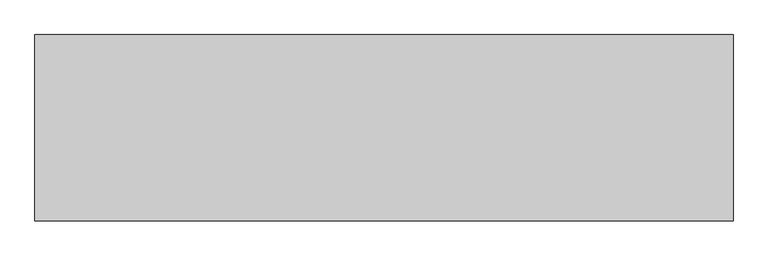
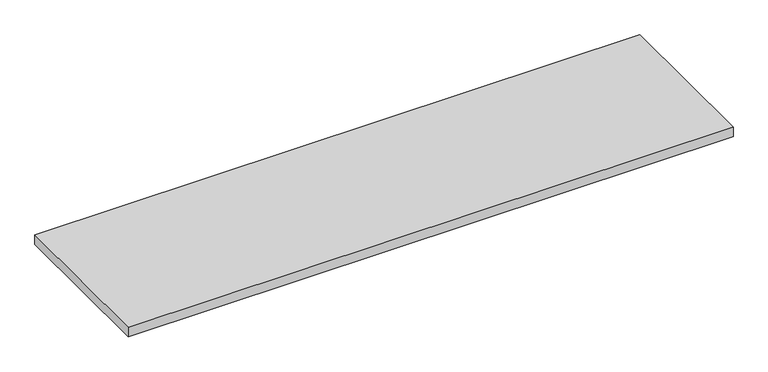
"""IFC4 building model written with IfcOpenShell, lengths in millimetres: furniture geometry, Desk Benching : Desk Benching."""

from ifc_helpers import new_model, si_unit, frame, origin, place, context, project, spatial, polyline, outline, extrude, source, transform, mapped, element, save


def furniture_afa30520(model_context):
    return source(origin(), model_context, "Body", "SweptSolid", [
        extrude(outline(polyline([(3005.0, 695.0), (5.0, 695.0), (5.0, 1495.0), (3005.0, 1495.0), (3005.0, 695.0)])), frame((0.0, 0.0, 680.0), z_axis=(0.0, 0.0, 1.0), x_axis=(1.0, 0.0, 0.0)), (0.0, 0.0, 1.0), 50.0),
    ])


if __name__ == "__main__":
    model = new_model("IFC4")
    model_context = context("Model", 3, world=origin())
    ifc_project = project(units=[si_unit("LENGTHUNIT", "METRE", prefix="MILLI")], contexts=[model_context])
    site = spatial("IfcSite", under=ifc_project)
    building = spatial("IfcBuilding", under=site)
    placement = place(None, origin())
    furniture_shape = furniture_afa30520(model_context)
    element("IfcFurniture", 1, ObjectType="Desk Benching : Desk Benching", at=placement, inside=building, context=model_context, shape_type="MappedRepresentation", body=[
        mapped(furniture_shape, transform((0.0, 0.0, 0.0), x_axis=(1.0, 0.0, 0.0), y_axis=(0.0, 1.0, 0.0), z_axis=(0.0, 0.0, 1.0))),
    ])
    save(model, "model.ifc")
